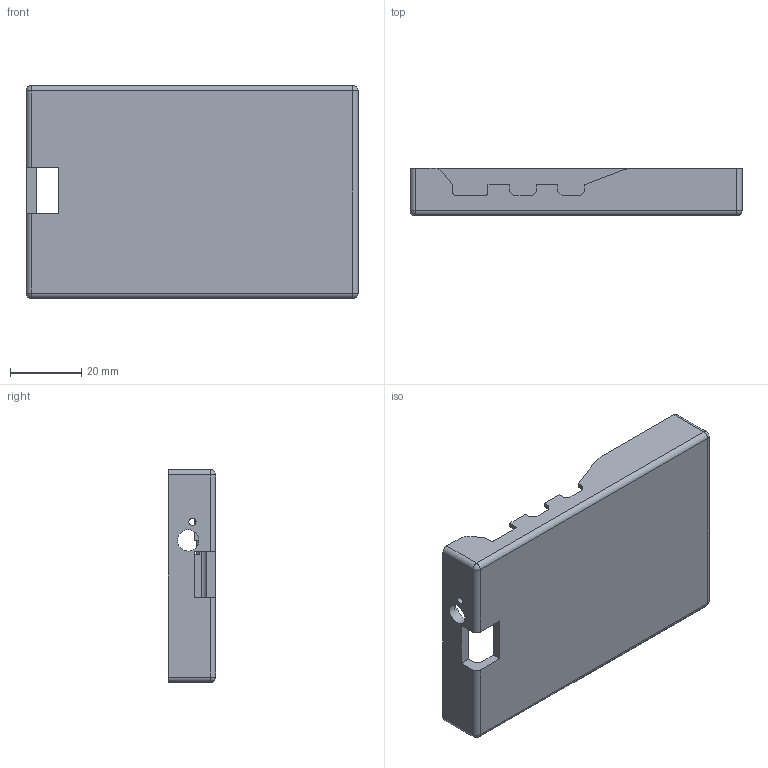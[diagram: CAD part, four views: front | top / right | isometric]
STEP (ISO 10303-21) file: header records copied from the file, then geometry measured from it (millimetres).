
FILE_DESCRIPTION(/* description */ (''),/* implementation_level */ '2;1');
FILE_NAME(/* name */ 'Bottom.step',/* time_stamp */ '2024-01-19T15:06:24-05:00',/* author */ (''),/* organization */ (''),/* preprocessor_version */ 'ST-DEVELOPER v20',/* originating_system */ 'Autodesk Translation Framework v12.14.0.127',/* authorisation */ '');
FILE_SCHEMA (('AUTOMOTIVE_DESIGN { 1 0 10303 214 3 1 1 }'));
Length unit declared in the file: millimetre
Products named in the file (2): PiWu; V2
Assembly tree (1 placements, depth 2):
  PiWu
    V2
Bounding box: 93.1 x 13.28 x 59.65 mm (x, y, z)
Volume: 18187.3 mm3; surface area: 16666.2 mm2
Topology: 1 solids, 1 shells, 126 faces, 327 edges, 210 vertices
Faces by surface type: plane 82, cylinder 34, sphere 8, cone 2
Full cylindrical faces by diameter (mm): 2 x1, 2.3 x4, 4 x4, 6 x1
Entity records: 3895 total; most frequent: CARTESIAN_POINT 692, DIRECTION 663, ORIENTED_EDGE 654, EDGE_CURVE 327, LINE 245, VECTOR 245, VERTEX_POINT 210, AXIS2_PLACEMENT_3D 209
